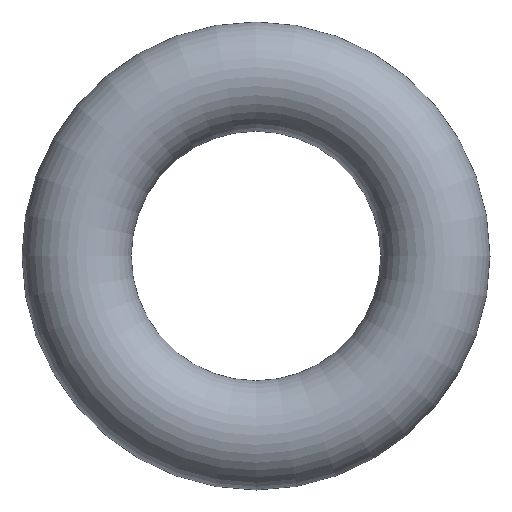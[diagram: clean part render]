
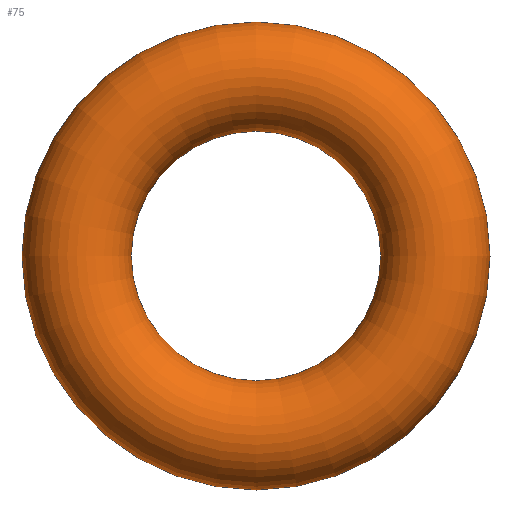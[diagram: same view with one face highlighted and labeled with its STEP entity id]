
A CAD part, front view. The second image highlights one B-rep face of the part: STEP entity #75.
In plain terms, the highlighted toroidal (fillet/blend) face has major radius 5.75 mm and minor radius 1.75 mm.
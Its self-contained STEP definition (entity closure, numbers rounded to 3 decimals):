
#75 = ADVANCED_FACE( '', ( #77 ), #78, .T. );
#77 = FACE_BOUND( '', #79, .T. );
#78 = TOROIDAL_SURFACE( '', #80, 5.75, 1.75 );
#79 = VERTEX_LOOP( '', #81 );
#80 = AXIS2_PLACEMENT_3D( '', #82, #83, #84 );
#81 = VERTEX_POINT( '', #85 );
#82 = CARTESIAN_POINT( '', ( 0., 0., 0. ) );
#83 = DIRECTION( '', ( 0., -1., 0. ) );
#84 = DIRECTION( '', ( 0., 0., -1. ) );
#85 = CARTESIAN_POINT( '', ( 0., 0., -7.5 ) );
